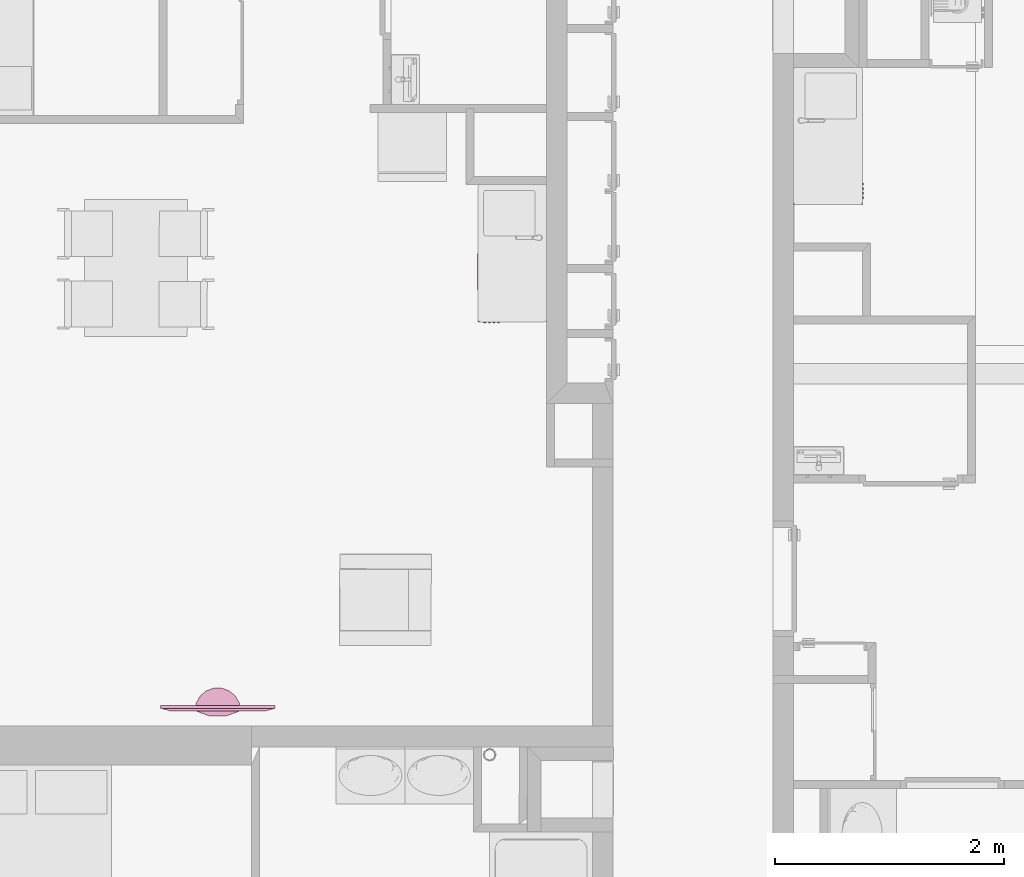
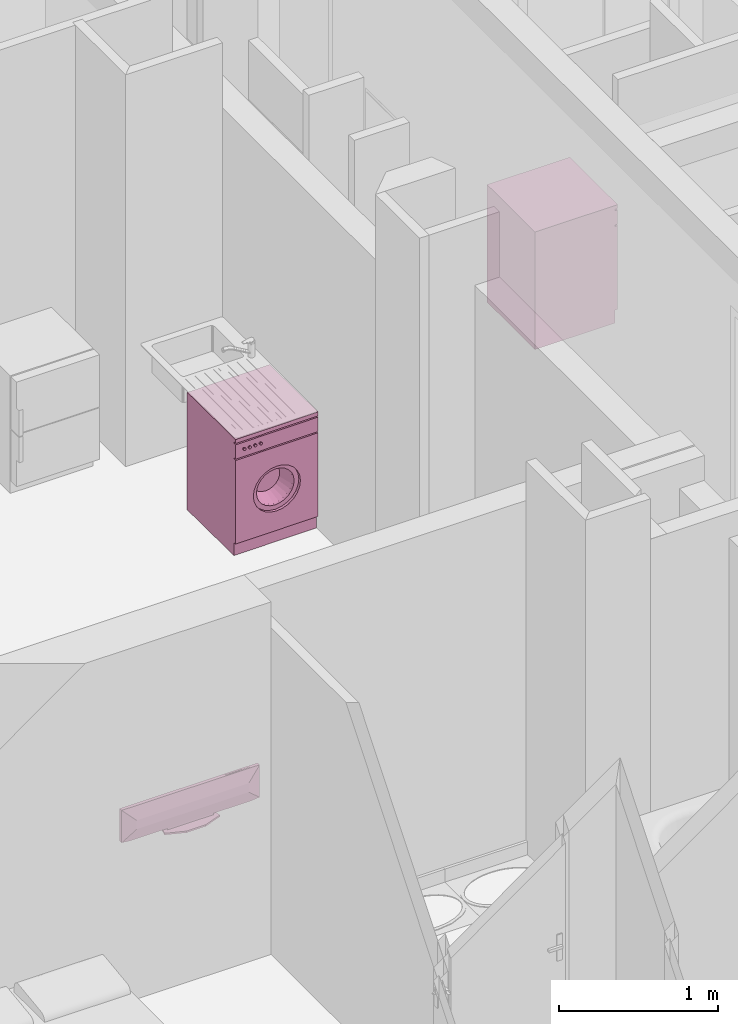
# One storey, part 119 of 164: 3 furnishings.
"""IFC2X3 building model written with IfcOpenShell, lengths in millimetres."""

from ifc_helpers import new_model, entity, si_unit, converted_unit, derived_unit, money_unit, direction, frame, origin_with_axes, place, context, subcontext, project, spatial, open_shell, faceted_brep, surface_model, source, transform, mapped, type_object, element, save


model = new_model("IFC2X3")

# Units and contexts
model_context = context("Model", 3, precision=0.01, world=origin_with_axes(), true_north=direction((0.0, 1.0)))
body_context = subcontext(model_context, "Body", "Model", "MODEL_VIEW")
ifc_project = project(units=[si_unit("LENGTHUNIT", "METRE", prefix="MILLI"), si_unit("AREAUNIT", "SQUARE_METRE"), si_unit("VOLUMEUNIT", "CUBIC_METRE"), converted_unit("PLANEANGLEUNIT", "DEGREE", entity("IfcPlaneAngleMeasure", 0.0174532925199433), si_unit("PLANEANGLEUNIT", "RADIAN"), dimensions=[0, 0, 0, 0, 0, 0, 0]), money_unit("USD"), converted_unit("TIMEUNIT", "Year", entity("IfcTimeMeasure", 31557600.0), si_unit("TIMEUNIT", "SECOND"), dimensions=[0, 0, 1, 0, 0, 0, 0]), si_unit("MASSUNIT", "GRAM", prefix="KILO"), si_unit("THERMODYNAMICTEMPERATUREUNIT", "DEGREE_CELSIUS"), si_unit("LUMINOUSINTENSITYUNIT", "LUMEN"), si_unit("ENERGYUNIT", "JOULE", prefix="MEGA"), derived_unit("THERMALCONDUCTANCEUNIT", [(si_unit("POWERUNIT", "WATT"), 1), (si_unit("LENGTHUNIT", "METRE"), -1), (si_unit("THERMODYNAMICTEMPERATUREUNIT", "KELVIN"), -1)]), derived_unit("SPECIFICHEATCAPACITYUNIT", [(si_unit("ENERGYUNIT", "JOULE"), 1), (si_unit("MASSUNIT", "GRAM", prefix="KILO"), -1), (si_unit("THERMODYNAMICTEMPERATUREUNIT", "KELVIN"), -1)]), derived_unit("MASSDENSITYUNIT", [(si_unit("MASSUNIT", "GRAM", prefix="KILO"), 1), (si_unit("VOLUMEUNIT", "CUBIC_METRE"), -1)])], contexts=[model_context])

# Site, building, storey
site_placement = place(None, origin_with_axes())
site = spatial("IfcSite", under=ifc_project, at=site_placement, Name="Site", CompositionType="ELEMENT")
building_placement = place(site_placement, origin_with_axes())
building = spatial("IfcBuilding", under=site, at=building_placement, Name="Bâtiment", CompositionType="ELEMENT")
storey_placement = place(building_placement, frame((0.0, 0.0, 5750.0), z_axis=(0.0, 0.0, 1.0), x_axis=(1.0, 0.0, 0.0)))
storey = spatial("IfcBuildingStorey", under=building, at=storey_placement, Name="Etage1", CompositionType="ELEMENT", Elevation=5750.0)

# Furnishings
furnishing_element_type_1 = type_object("IfcFurnishingElementType", Name="Ecran TV plasma")
shared_shape_1 = source(origin_with_axes(), body_context, "Body", "Brep", [
    faceted_brep([(-300.0, 45.45454545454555, 0.0), (-300.0, 45.45454545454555, 12.72727272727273), (-311.9952377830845, -22.76722074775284, 12.72727272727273), (-311.9952377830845, -22.76722074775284, 0.0), (-300.362869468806, 45.66379498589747, 0.0), (-300.362869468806, 45.66379498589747, 12.72727272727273), (-430.8157560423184, 93.01588086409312, 12.72727272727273), (-569.5967719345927, 92.94321528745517, 12.72727272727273), (-700.0000000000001, 45.45454545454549, 12.72727272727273), (-699.9923846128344, 43.70923835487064, 12.72727272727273), (-687.402263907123, -24.40525330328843, 12.72727272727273), (-652.3327960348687, -84.13989598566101, 12.72727272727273), (-598.9906470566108, -128.3293772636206, 12.72727272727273), (-533.7743345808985, -151.6730637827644, 12.72727272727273), (-464.5067103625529, -151.3708248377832, 12.72727272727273), (-399.4965906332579, -127.4589147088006, 12.72727272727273), (-346.5420938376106, -82.80562387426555, 12.72727272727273), (-346.5420938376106, -82.80562387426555, 0.0), (-399.4965906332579, -127.4589147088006, 0.0), (-464.5067103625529, -151.3708248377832, 0.0), (-533.7743345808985, -151.6730637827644, 0.0), (-598.9906470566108, -128.3293772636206, 0.0), (-652.3327960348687, -84.13989598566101, 0.0), (-687.402263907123, -24.40525330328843, 0.0), (-699.9923846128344, 43.70923835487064, 0.0), (-700.0000000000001, 45.45454545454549, 0.0), (-569.5967719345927, 92.94321528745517, 0.0), (-430.8157560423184, 93.01588086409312, 0.0)], [[[0, 1, 2, 3]], [[4, 5, 1, 0]], [[1, 5, 6, 7, 8, 9, 10, 11, 12, 13, 14, 15, 16, 2]], [[3, 2, 16, 17]], [[0, 3, 17, 18, 19, 20, 21, 22, 23, 24, 25, 26, 27, 4]], [[27, 6, 5, 4]], [[26, 7, 6, 27]], [[25, 8, 7, 26]], [[24, 9, 8, 25]], [[23, 10, 9, 24]], [[22, 11, 10, 23]], [[21, 12, 11, 22]], [[20, 13, 12, 21]], [[19, 14, 13, 20]], [[18, 15, 14, 19]], [[17, 16, 15, 18]]]),
    faceted_brep([(-666.6666666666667, 2.500000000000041, 12.72727272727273), (-666.6666666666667, 2.500000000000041, 25.45454545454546), (-666.6666666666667, 22.50000000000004, 25.45454545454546), (-666.6666666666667, 22.50000000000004, 12.72727272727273), (-333.3333333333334, 2.500000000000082, 12.72727272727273), (-333.3333333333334, 2.500000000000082, 25.45454545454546), (-333.3333333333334, 22.50000000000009, 25.45454545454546), (-333.3333333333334, 22.50000000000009, 12.72727272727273)], [[[0, 1, 2, 3]], [[4, 5, 1, 0]], [[1, 5, 6, 2]], [[3, 2, 6, 7]], [[0, 3, 7, 4]], [[7, 6, 5, 4]]]),
    faceted_brep([(-62.5, -0.2539999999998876, 65.45454545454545), (-62.5, 0.0, 65.45454545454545), (-62.5, 0.0, 254.5454545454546), (-62.5, -0.2539999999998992, 254.5454545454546), (-937.5, -0.2539999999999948, 65.45454545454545), (-937.5, 0.0, 65.45454545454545), (-937.5, 0.0, 254.5454545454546), (-937.5, -0.2540000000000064, 254.5454545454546)], [[[0, 1, 2, 3]], [[4, 5, 1, 0]], [[1, 5, 6, 2]], [[3, 2, 6, 7]], [[0, 3, 7, 4]], [[7, 6, 5, 4]]]),
    faceted_brep([(-937.5, 0.0, 25.45454545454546), (-62.5, 0.0, 25.45454545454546), (0.0, 0.0, 31.81818181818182), (0.0, 0.0, 280.0), (-1000.0, 0.0, 280.0), (-1000.0, 0.0, 31.81818181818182), (-937.5000003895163, 25.00000000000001, 25.4545450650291), (-62.50000038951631, 25.00000000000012, 25.4545450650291), (-3.895163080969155e-07, 25.00000000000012, 31.81818187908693), (-3.895163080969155e-07, 25.00000000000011, 279.9999999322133), (-1000.000000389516, 24.99999999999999, 279.9999999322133), (-1000.000000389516, 25.0, 31.81818187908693), (-934.156616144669, 42.64268163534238, 91.29792930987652), (-906.6987288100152, 50.00000037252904, 118.7558166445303), (-93.30127196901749, 50.00000037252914, 118.7558166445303), (-65.84338463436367, 42.64268163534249, 91.29792930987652), (-93.30127196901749, 50.00000037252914, 186.6987283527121), (-906.6987288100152, 50.00000037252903, 186.6987283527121)], [[[0, 1, 2, 3, 4, 5]], [[0, 6, 7, 1]], [[1, 7, 8, 2]], [[2, 8, 9, 3]], [[3, 9, 10, 4]], [[4, 10, 11, 5]], [[5, 11, 6, 0]], [[6, 12, 13, 14, 15, 7]], [[7, 15, 8]], [[8, 15, 14, 16, 9]], [[9, 16, 17, 10]], [[10, 17, 13, 12, 11]], [[11, 12, 6]], [[17, 16, 14, 13]]]),
    faceted_brep([(-500.0, -0.7937499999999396, 39.45454545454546), (-500.0, 0.0, 39.45454545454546), (-490.0, 0.0, 46.45454545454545), (-490.0, -0.7937499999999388, 46.45454545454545), (-510.0, -0.7937499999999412, 46.45454545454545), (-510.0, 0.0, 46.45454545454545), (-600.0, 0.0, 52.18181818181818), (-400.0, 0.0, 52.18181818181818), (-400.0, -0.7937499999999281, 52.18181818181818), (-600.0, -0.7937499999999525, 52.18181818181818)], [[[0, 1, 2, 3]], [[4, 5, 1, 0]], [[1, 5, 6, 7, 2]], [[3, 2, 7, 8]], [[0, 3, 8, 9, 4]], [[9, 6, 5, 4]], [[8, 7, 6, 9]]]),
    faceted_brep([(-866.6666666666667, 10.0, 280.0), (-866.6666666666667, 10.0, 281.5875), (-933.3333333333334, 9.999999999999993, 281.5875), (-933.3333333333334, 9.999999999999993, 280.0), (-866.6666666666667, 16.25, 280.0), (-866.6666666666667, 16.25, 281.5875), (-933.3333333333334, 16.24999999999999, 281.5875), (-933.3333333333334, 16.24999999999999, 280.0)], [[[0, 1, 2, 3]], [[0, 4, 5, 1]], [[1, 5, 6, 2]], [[2, 6, 7, 3]], [[3, 7, 4, 0]], [[7, 6, 5, 4]]]),
    faceted_brep([(-795.2380952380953, 10.00000000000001, 280.0), (-795.2380952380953, 10.00000000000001, 281.5875), (-861.9047619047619, 10.0, 281.5875), (-861.9047619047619, 10.0, 280.0), (-795.2380952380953, 16.25000000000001, 280.0), (-795.2380952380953, 16.25000000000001, 281.5875), (-861.9047619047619, 16.25, 281.5875), (-861.9047619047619, 16.25, 280.0)], [[[0, 1, 2, 3]], [[0, 4, 5, 1]], [[1, 5, 6, 2]], [[2, 6, 7, 3]], [[3, 7, 4, 0]], [[7, 6, 5, 4]]]),
    faceted_brep([(-757.1428571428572, 10.00000000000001, 280.0), (-757.1428571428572, 10.00000000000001, 281.5875), (-790.4761904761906, 10.00000000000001, 281.5875), (-790.4761904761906, 10.00000000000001, 280.0), (-757.1428571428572, 16.25000000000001, 280.0), (-757.1428571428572, 16.25000000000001, 281.5875), (-790.4761904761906, 16.25000000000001, 281.5875), (-790.4761904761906, 16.25000000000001, 280.0)], [[[0, 1, 2, 3]], [[0, 4, 5, 1]], [[1, 5, 6, 2]], [[2, 6, 7, 3]], [[3, 7, 4, 0]], [[7, 6, 5, 4]]]),
])
furnishing_placement = place(storey_placement, frame((2220356.736010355, -643834.6130542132, 800.0000000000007), z_axis=(0.0, 0.0, 1.0), x_axis=(-0.999999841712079, 0.0005626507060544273, 0.0)))
element("IfcFurnishingElement", 1, at=furnishing_placement, inside=storey, type_object=furnishing_element_type_1, Name="Obj.-034", context=body_context, shape_type="MappedRepresentation", body=[
    mapped(shared_shape_1, transform((0.0, 0.0, 0.0))),
])
furnishing_element_type_2 = type_object("IfcFurnishingElementType", Name="Machine à laver")
shared_shape_2 = source(origin_with_axes(), body_context, "Body", "SurfaceModel", [
    faceted_brep([(0.0, 20.0, 100.0), (600.0, 20.0, 100.0), (600.0, 0.0, 100.0), (0.0, 0.0, 100.0), (0.0, 20.00000000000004, 740.0), (600.0, 20.00000000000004, 740.0), (471.4285714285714, 20.00000000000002, 420.0000000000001), (465.5872845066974, 20.00000000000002, 464.3689791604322), (448.4614977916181, 20.00000000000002, 505.7142857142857), (421.2183053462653, 20.00000000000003, 541.2183053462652), (385.7142857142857, 20.00000000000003, 568.4614977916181), (344.3689791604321, 20.00000000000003, 585.5872845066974), (300.0000000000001, 20.00000000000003, 591.4285714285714), (255.6310208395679, 20.00000000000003, 585.5872845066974), (214.2857142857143, 20.00000000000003, 568.4614977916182), (178.7816946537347, 20.00000000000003, 541.2183053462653), (151.5385022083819, 20.00000000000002, 505.7142857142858), (134.4127154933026, 20.00000000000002, 464.3689791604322), (128.5714285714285, 20.00000000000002, 420.0000000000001), (134.4127154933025, 20.00000000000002, 375.6310208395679), (151.5385022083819, 20.00000000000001, 334.2857142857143), (178.7816946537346, 20.00000000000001, 298.7816946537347), (214.2857142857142, 20.00000000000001, 271.5385022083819), (255.6310208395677, 20.00000000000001, 254.4127154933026), (299.9999999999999, 20.00000000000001, 248.5714285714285), (344.368979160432, 20.00000000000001, 254.4127154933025), (385.7142857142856, 20.00000000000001, 271.5385022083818), (421.2183053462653, 20.00000000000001, 298.7816946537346), (448.4614977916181, 20.00000000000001, 334.2857142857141), (465.5872845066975, 20.00000000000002, 375.6310208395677), (600.0, 0.0, 740.0), (0.0, 0.0, 740.0), (471.4285714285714, 0.0, 420.0000000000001), (465.5872845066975, 0.0, 375.6310208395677), (448.4614977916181, 0.0, 334.2857142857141), (421.2183053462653, 0.0, 298.7816946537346), (385.7142857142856, 0.0, 271.5385022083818), (344.368979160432, 0.0, 254.4127154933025), (299.9999999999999, 0.0, 248.5714285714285), (255.6310208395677, 0.0, 254.4127154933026), (214.2857142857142, 0.0, 271.5385022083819), (178.7816946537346, 0.0, 298.7816946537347), (151.5385022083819, 0.0, 334.2857142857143), (134.4127154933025, 0.0, 375.6310208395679), (128.5714285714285, 0.0, 420.0000000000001), (134.4127154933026, 0.0, 464.3689791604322), (151.5385022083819, 0.0, 505.7142857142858), (178.7816946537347, 0.0, 541.2183053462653), (214.2857142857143, 0.0, 568.4614977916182), (255.6310208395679, 0.0, 585.5872845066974), (300.0000000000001, 0.0, 591.4285714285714), (344.3689791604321, 0.0, 585.5872845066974), (385.7142857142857, 0.0, 568.4614977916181), (421.2183053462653, 0.0, 541.2183053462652), (448.4614977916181, 0.0, 505.7142857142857), (465.5872845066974, 0.0, 464.3689791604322)], [[[0, 1, 2, 3]], [[0, 4, 5, 1], [6, 7, 8, 9, 10, 11, 12, 13, 14, 15, 16, 17, 18, 19, 20, 21, 22, 23, 24, 25, 26, 27, 28, 29]], [[1, 5, 30, 2]], [[3, 2, 30, 31], [32, 33, 34, 35, 36, 37, 38, 39, 40, 41, 42, 43, 44, 45, 46, 47, 48, 49, 50, 51, 52, 53, 54, 55]], [[4, 0, 3, 31]], [[5, 4, 31, 30]], [[7, 6, 32, 55]], [[8, 7, 55, 54]], [[9, 8, 54, 53]], [[10, 9, 53, 52]], [[11, 10, 52, 51]], [[12, 11, 51, 50]], [[13, 12, 50, 49]], [[14, 13, 49, 48]], [[15, 14, 48, 47]], [[16, 15, 47, 46]], [[17, 16, 46, 45]], [[18, 17, 45, 44]], [[19, 18, 44, 43]], [[20, 19, 43, 42]], [[21, 20, 42, 41]], [[22, 21, 41, 40]], [[23, 22, 40, 39]], [[24, 23, 39, 38]], [[25, 24, 38, 37]], [[26, 25, 37, 36]], [[27, 26, 36, 35]], [[28, 27, 35, 34]], [[29, 28, 34, 33]], [[6, 29, 33, 32]]]),
    faceted_brep([(471.4285714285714, 40.00000000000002, 420.0000000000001), (465.5872845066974, 40.00000000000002, 464.3689791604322), (465.5872845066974, 20.00000000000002, 464.3689791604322), (471.4285714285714, 20.00000000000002, 420.0000000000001), (465.5872845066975, 40.00000000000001, 375.6310208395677), (448.4614977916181, 40.00000000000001, 334.2857142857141), (421.2183053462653, 40.00000000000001, 298.7816946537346), (385.7142857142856, 40.00000000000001, 271.5385022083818), (344.368979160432, 40.00000000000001, 254.4127154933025), (299.9999999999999, 40.00000000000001, 248.5714285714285), (255.6310208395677, 40.00000000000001, 254.4127154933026), (214.2857142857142, 40.00000000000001, 271.5385022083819), (178.7816946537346, 40.00000000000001, 298.7816946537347), (151.5385022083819, 40.00000000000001, 334.2857142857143), (134.4127154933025, 40.00000000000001, 375.6310208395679), (128.5714285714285, 40.00000000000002, 420.0000000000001), (134.4127154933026, 40.00000000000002, 464.3689791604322), (151.5385022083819, 40.00000000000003, 505.7142857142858), (178.7816946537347, 40.00000000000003, 541.2183053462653), (214.2857142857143, 40.00000000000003, 568.4614977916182), (255.6310208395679, 40.00000000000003, 585.5872845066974), (300.0000000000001, 40.00000000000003, 591.4285714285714), (344.3689791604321, 40.00000000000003, 585.5872845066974), (385.7142857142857, 40.00000000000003, 568.4614977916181), (421.2183053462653, 40.00000000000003, 541.2183053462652), (448.4614977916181, 40.00000000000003, 505.7142857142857), (437.1428571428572, 40.00000000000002, 420.0000000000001), (432.469827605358, 40.00000000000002, 455.4951833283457), (418.7691982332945, 40.00000000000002, 488.5714285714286), (396.9746442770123, 40.00000000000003, 516.9746442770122), (368.5714285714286, 40.00000000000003, 538.7691982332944), (335.4951833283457, 40.00000000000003, 552.469827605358), (300.0000000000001, 40.00000000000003, 557.1428571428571), (264.5048166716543, 40.00000000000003, 552.469827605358), (231.4285714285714, 40.00000000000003, 538.7691982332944), (203.0253557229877, 40.00000000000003, 516.9746442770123), (181.2308017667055, 40.00000000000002, 488.5714285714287), (167.530172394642, 40.00000000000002, 455.4951833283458), (162.8571428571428, 40.00000000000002, 420.0000000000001), (167.530172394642, 40.00000000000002, 384.5048166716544), (181.2308017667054, 40.00000000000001, 351.4285714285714), (203.0253557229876, 40.00000000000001, 323.0253557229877), (231.4285714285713, 40.00000000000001, 301.2308017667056), (264.5048166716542, 40.00000000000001, 287.530172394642), (299.9999999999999, 40.00000000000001, 282.8571428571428), (335.4951833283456, 40.00000000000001, 287.530172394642), (368.5714285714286, 40.00000000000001, 301.2308017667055), (396.9746442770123, 40.00000000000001, 323.0253557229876), (418.7691982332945, 40.00000000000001, 351.4285714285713), (432.469827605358, 40.00000000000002, 384.5048166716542), (448.4614977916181, 20.00000000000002, 505.7142857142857), (421.2183053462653, 20.00000000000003, 541.2183053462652), (385.7142857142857, 20.00000000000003, 568.4614977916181), (344.3689791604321, 20.00000000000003, 585.5872845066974), (300.0000000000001, 20.00000000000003, 591.4285714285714), (255.6310208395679, 20.00000000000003, 585.5872845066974), (214.2857142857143, 20.00000000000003, 568.4614977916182), (178.7816946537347, 20.00000000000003, 541.2183053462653), (151.5385022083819, 20.00000000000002, 505.7142857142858), (134.4127154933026, 20.00000000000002, 464.3689791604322), (128.5714285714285, 20.00000000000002, 420.0000000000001), (134.4127154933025, 20.00000000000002, 375.6310208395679), (151.5385022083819, 20.00000000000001, 334.2857142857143), (178.7816946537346, 20.00000000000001, 298.7816946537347), (214.2857142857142, 20.00000000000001, 271.5385022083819), (255.6310208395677, 20.00000000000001, 254.4127154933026), (299.9999999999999, 20.00000000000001, 248.5714285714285), (344.368979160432, 20.00000000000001, 254.4127154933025), (385.7142857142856, 20.00000000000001, 271.5385022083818), (421.2183053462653, 20.00000000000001, 298.7816946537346), (448.4614977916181, 20.00000000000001, 334.2857142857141), (465.5872845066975, 20.00000000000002, 375.6310208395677), (437.1428571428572, 20.00000000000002, 420.0000000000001), (432.469827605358, 20.00000000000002, 384.5048166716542), (418.7691982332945, 20.00000000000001, 351.4285714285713), (396.9746442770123, 20.00000000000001, 323.0253557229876), (368.5714285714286, 20.00000000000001, 301.2308017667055), (335.4951833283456, 20.00000000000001, 287.530172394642), (299.9999999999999, 20.00000000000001, 282.8571428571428), (264.5048166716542, 20.00000000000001, 287.530172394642), (231.4285714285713, 20.00000000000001, 301.2308017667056), (203.0253557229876, 20.00000000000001, 323.0253557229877), (181.2308017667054, 20.00000000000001, 351.4285714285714), (167.530172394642, 20.00000000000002, 384.5048166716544), (162.8571428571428, 20.00000000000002, 420.0000000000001), (167.530172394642, 20.00000000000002, 455.4951833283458), (181.2308017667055, 20.00000000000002, 488.5714285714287), (203.0253557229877, 20.00000000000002, 516.9746442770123), (231.4285714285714, 20.00000000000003, 538.7691982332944), (264.5048166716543, 20.00000000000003, 552.469827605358), (300.0000000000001, 20.00000000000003, 557.1428571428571), (335.4951833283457, 20.00000000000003, 552.469827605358), (368.5714285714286, 20.00000000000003, 538.7691982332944), (396.9746442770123, 20.00000000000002, 516.9746442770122), (418.7691982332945, 20.00000000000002, 488.5714285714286), (432.469827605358, 20.00000000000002, 455.4951833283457)], [[[0, 1, 2, 3]], [[0, 4, 5, 6, 7, 8, 9, 10, 11, 12, 13, 14, 15, 16, 17, 18, 19, 20, 21, 22, 23, 24, 25, 1], [26, 27, 28, 29, 30, 31, 32, 33, 34, 35, 36, 37, 38, 39, 40, 41, 42, 43, 44, 45, 46, 47, 48, 49]], [[1, 25, 50, 2]], [[3, 2, 50, 51, 52, 53, 54, 55, 56, 57, 58, 59, 60, 61, 62, 63, 64, 65, 66, 67, 68, 69, 70, 71], [72, 73, 74, 75, 76, 77, 78, 79, 80, 81, 82, 83, 84, 85, 86, 87, 88, 89, 90, 91, 92, 93, 94, 95]], [[4, 0, 3, 71]], [[5, 4, 71, 70]], [[6, 5, 70, 69]], [[7, 6, 69, 68]], [[8, 7, 68, 67]], [[9, 8, 67, 66]], [[10, 9, 66, 65]], [[11, 10, 65, 64]], [[12, 11, 64, 63]], [[13, 12, 63, 62]], [[14, 13, 62, 61]], [[15, 14, 61, 60]], [[16, 15, 60, 59]], [[17, 16, 59, 58]], [[18, 17, 58, 57]], [[19, 18, 57, 56]], [[20, 19, 56, 55]], [[21, 20, 55, 54]], [[22, 21, 54, 53]], [[23, 22, 53, 52]], [[24, 23, 52, 51]], [[25, 24, 51, 50]], [[27, 26, 72, 95]], [[28, 27, 95, 94]], [[29, 28, 94, 93]], [[30, 29, 93, 92]], [[31, 30, 92, 91]], [[32, 31, 91, 90]], [[33, 32, 90, 89]], [[34, 33, 89, 88]], [[35, 34, 88, 87]], [[36, 35, 87, 86]], [[37, 36, 86, 85]], [[38, 37, 85, 84]], [[39, 38, 84, 83]], [[40, 39, 83, 82]], [[41, 40, 82, 81]], [[42, 41, 81, 80]], [[43, 42, 80, 79]], [[44, 43, 79, 78]], [[45, 44, 78, 77]], [[46, 45, 77, 76]], [[47, 46, 76, 75]], [[48, 47, 75, 74]], [[49, 48, 74, 73]], [[26, 49, 73, 72]]]),
    surface_model("IfcShellBasedSurfaceModel", [(264.5048166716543, 39.99999999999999, 552.469827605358), (300.0, 39.99999999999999, 557.1428571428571), (300.0, 140.0, 522.8571428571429), (273.3786125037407, 140.0, 519.3523707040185), (335.4951833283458, 39.99999999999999, 552.469827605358), (326.6213874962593, 140.0, 519.3523707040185), (351.4285714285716, 140.0, 509.0768986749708), (372.7309832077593, 140.0, 492.7309832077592), (389.0768986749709, 140.0, 471.4285714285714), (399.3523707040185, 140.0, 446.6213874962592), (402.8571428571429, 140.0, 420.0), (399.3523707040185, 140.0, 393.3786125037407), (389.0768986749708, 140.0, 368.5714285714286), (372.7309832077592, 140.0, 347.2690167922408), (351.4285714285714, 140.0, 330.9231013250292), (326.6213874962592, 140.0, 320.6476292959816), (299.9999999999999, 140.0, 317.1428571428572), (273.3786125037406, 140.0, 320.6476292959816), (248.5714285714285, 140.0, 330.9231013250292), (227.2690167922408, 140.0, 347.2690167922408), (210.9231013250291, 140.0, 368.5714285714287), (200.6476292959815, 140.0, 393.3786125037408), (197.1428571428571, 140.0, 420.0000000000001), (200.6476292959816, 140.0, 446.6213874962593), (210.9231013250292, 140.0, 471.4285714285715), (227.2690167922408, 140.0, 492.7309832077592), (248.5714285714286, 140.0, 509.0768986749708), (231.4285714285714, 39.99999999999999, 538.7691982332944), (368.5714285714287, 39.99999999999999, 538.7691982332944), (396.9746442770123, 39.99999999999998, 516.9746442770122), (418.7691982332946, 39.99999999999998, 488.5714285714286), (432.469827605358, 39.99999999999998, 455.4951833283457), (437.1428571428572, 39.99999999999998, 419.9999999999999), (432.469827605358, 39.99999999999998, 384.5048166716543), (418.7691982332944, 39.99999999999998, 351.4285714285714), (396.9746442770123, 39.99999999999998, 323.0253557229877), (368.5714285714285, 39.99999999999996, 301.2308017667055), (335.4951833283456, 39.99999999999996, 287.5301723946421), (299.9999999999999, 39.99999999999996, 282.8571428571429), (264.5048166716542, 39.99999999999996, 287.5301723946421), (231.4285714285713, 39.99999999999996, 301.2308017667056), (203.0253557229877, 39.99999999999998, 323.0253557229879), (181.2308017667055, 39.99999999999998, 351.4285714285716), (167.530172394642, 39.99999999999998, 384.5048166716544), (162.8571428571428, 39.99999999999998, 420.0000000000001), (167.5301723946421, 39.99999999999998, 455.4951833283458), (181.2308017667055, 39.99999999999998, 488.5714285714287), (203.0253557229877, 39.99999999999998, 516.9746442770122)], [open_shell([[[0, 1, 2, 3]], [[1, 4, 5, 2]], [[2, 5, 6, 7, 8, 9, 10, 11, 12, 13, 14, 15, 16, 17, 18, 19, 20, 21, 22, 23, 24, 25, 26, 3]], [[27, 0, 3, 26]], [[4, 28, 6, 5]], [[28, 29, 7, 6]], [[29, 30, 8, 7]], [[30, 31, 9, 8]], [[31, 32, 10, 9]], [[32, 33, 11, 10]], [[33, 34, 12, 11]], [[34, 35, 13, 12]], [[35, 36, 14, 13]], [[36, 37, 15, 14]], [[37, 38, 16, 15]], [[38, 39, 17, 16]], [[39, 40, 18, 17]], [[40, 41, 19, 18]], [[41, 42, 20, 19]], [[42, 43, 21, 20]], [[43, 44, 22, 21]], [[44, 45, 23, 22]], [[45, 46, 24, 23]], [[46, 47, 25, 24]], [[47, 27, 26, 25]]])]),
    surface_model("IfcShellBasedSurfaceModel", [(0.0, 20.0, 100.0), (0.0, 20.00000000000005, 870.0), (0.0, 600.0, 870.0), (0.0, 600.0, 99.99999999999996)], [open_shell([[[0, 1, 2, 3]]])]),
    surface_model("IfcShellBasedSurfaceModel", [(600.0, 19.99999999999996, 100.0), (600.0, 20.00000000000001, 870.0), (600.0, 599.9999999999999, 870.0), (600.0, 599.9999999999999, 99.99999999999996)], [open_shell([[[0, 1, 2, 3]]])]),
    surface_model("IfcShellBasedSurfaceModel", [(0.0, 600.0, 100.0), (0.0, 600.0, 870.0), (600.0, 600.0, 870.0), (600.0, 600.0, 100.0)], [open_shell([[[0, 1, 2, 3]]])]),
    faceted_brep([(0.0, 20.0, 0.0), (600.0, 20.0, 0.0), (600.0, 20.0, 100.0), (0.0, 20.0, 100.0), (0.0, 600.0, 0.0), (600.0, 600.0, 0.0), (600.0, 600.0, 100.0), (0.0, 600.0, 100.0)], [[[0, 1, 2, 3]], [[0, 4, 5, 1]], [[1, 5, 6, 2]], [[3, 2, 6, 7]], [[4, 0, 3, 7]], [[5, 4, 7, 6]]]),
    faceted_brep([(0.0, 20.0, 750.0), (600.0, 20.0, 750.0), (600.0, 0.0, 750.0), (0.0, 0.0, 750.0), (0.0, 20.00000000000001, 860.0), (600.0, 20.00000000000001, 860.0), (600.0, 0.0, 860.0), (0.0, 0.0, 860.0)], [[[0, 1, 2, 3]], [[0, 4, 5, 1]], [[1, 5, 6, 2]], [[3, 2, 6, 7]], [[4, 0, 3, 7]], [[5, 4, 7, 6]]]),
    surface_model("IfcShellBasedSurfaceModel", [(0.0, 20.0, 740.0), (0.0, 20.00000000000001, 870.0), (600.0, 20.00000000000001, 870.0), (600.0, 20.0, 740.0)], [open_shell([[[0, 1, 2, 3]]])]),
    faceted_brep([(0.0, 0.0, 870.0), (600.0, 0.0, 870.0), (600.0, 0.0, 900.0), (0.0, 0.0, 900.0), (0.0, 600.0, 870.0), (600.0, 600.0, 870.0), (600.0, 600.0, 900.0), (0.0, 600.0, 900.0)], [[[0, 1, 2, 3]], [[0, 4, 5, 1]], [[1, 5, 6, 2]], [[3, 2, 6, 7]], [[4, 0, 3, 7]], [[5, 4, 7, 6]]]),
    faceted_brep([(68.66025403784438, 0.0, 804.9999999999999), (64.99999999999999, 0.0, 801.3397459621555), (59.99999999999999, 0.0, 799.9999999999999), (54.99999999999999, 0.0, 801.3397459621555), (51.33974596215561, 0.0, 804.9999999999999), (49.99999999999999, 0.0, 809.9999999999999), (51.33974596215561, 0.0, 815.0), (55.0, 0.0, 818.6602540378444), (60.0, 0.0, 820.0), (65.0, 0.0, 818.6602540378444), (68.66025403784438, 0.0, 815.0), (69.99999999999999, 0.0, 809.9999999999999), (68.66025403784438, -10.0, 804.9999999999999), (64.99999999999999, -10.0, 801.3397459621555), (59.99999999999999, -10.0, 799.9999999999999), (54.99999999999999, -10.0, 801.3397459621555), (51.33974596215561, -10.0, 804.9999999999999), (49.99999999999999, -10.0, 809.9999999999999), (51.33974596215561, -10.0, 815.0), (55.0, -10.0, 818.6602540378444), (60.0, -10.0, 820.0), (65.0, -10.0, 818.6602540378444), (68.66025403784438, -10.0, 815.0), (69.99999999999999, -10.0, 809.9999999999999)], [[[0, 1, 2, 3, 4, 5, 6, 7, 8, 9, 10, 11]], [[1, 0, 12, 13]], [[2, 1, 13, 14]], [[3, 2, 14, 15]], [[4, 3, 15, 16]], [[5, 4, 16, 17]], [[6, 5, 17, 18]], [[7, 6, 18, 19]], [[8, 7, 19, 20]], [[9, 8, 20, 21]], [[10, 9, 21, 22]], [[11, 10, 22, 23]], [[0, 11, 23, 12]], [[12, 23, 22, 21, 20, 19, 18, 17, 16, 15, 14, 13]]]),
    faceted_brep([(108.6602540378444, 0.0, 804.9999999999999), (105.0, 0.0, 801.3397459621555), (99.99999999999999, 0.0, 799.9999999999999), (95.0, 0.0, 801.3397459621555), (91.33974596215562, 0.0, 804.9999999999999), (90.00000000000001, 0.0, 809.9999999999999), (91.33974596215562, 0.0, 815.0), (95.0, 0.0, 818.6602540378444), (100.0, 0.0, 820.0), (105.0, 0.0, 818.6602540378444), (108.6602540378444, 0.0, 815.0), (110.0, 0.0, 809.9999999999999), (108.6602540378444, -10.0, 804.9999999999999), (105.0, -10.0, 801.3397459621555), (99.99999999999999, -10.0, 799.9999999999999), (95.0, -10.0, 801.3397459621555), (91.33974596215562, -10.0, 804.9999999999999), (90.00000000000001, -10.0, 809.9999999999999), (91.33974596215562, -10.0, 815.0), (95.0, -10.0, 818.6602540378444), (100.0, -10.0, 820.0), (105.0, -10.0, 818.6602540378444), (108.6602540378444, -10.0, 815.0), (110.0, -10.0, 809.9999999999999)], [[[0, 1, 2, 3, 4, 5, 6, 7, 8, 9, 10, 11]], [[1, 0, 12, 13]], [[2, 1, 13, 14]], [[3, 2, 14, 15]], [[4, 3, 15, 16]], [[5, 4, 16, 17]], [[6, 5, 17, 18]], [[7, 6, 18, 19]], [[8, 7, 19, 20]], [[9, 8, 20, 21]], [[10, 9, 21, 22]], [[11, 10, 22, 23]], [[0, 11, 23, 12]], [[12, 23, 22, 21, 20, 19, 18, 17, 16, 15, 14, 13]]]),
    faceted_brep([(148.6602540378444, 0.0, 804.9999999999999), (145.0, 0.0, 801.3397459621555), (140.0, 0.0, 799.9999999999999), (135.0, 0.0, 801.3397459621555), (131.3397459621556, 0.0, 804.9999999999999), (130.0, 0.0, 809.9999999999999), (131.3397459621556, 0.0, 815.0), (135.0, 0.0, 818.6602540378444), (140.0, 0.0, 820.0), (145.0, 0.0, 818.6602540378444), (148.6602540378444, 0.0, 815.0), (150.0, 0.0, 809.9999999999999), (148.6602540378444, -10.0, 804.9999999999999), (145.0, -10.0, 801.3397459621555), (140.0, -10.0, 799.9999999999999), (135.0, -10.0, 801.3397459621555), (131.3397459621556, -10.0, 804.9999999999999), (130.0, -10.0, 809.9999999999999), (131.3397459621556, -10.0, 815.0), (135.0, -10.0, 818.6602540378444), (140.0, -10.0, 820.0), (145.0, -10.0, 818.6602540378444), (148.6602540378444, -10.0, 815.0), (150.0, -10.0, 809.9999999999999)], [[[0, 1, 2, 3, 4, 5, 6, 7, 8, 9, 10, 11]], [[1, 0, 12, 13]], [[2, 1, 13, 14]], [[3, 2, 14, 15]], [[4, 3, 15, 16]], [[5, 4, 16, 17]], [[6, 5, 17, 18]], [[7, 6, 18, 19]], [[8, 7, 19, 20]], [[9, 8, 20, 21]], [[10, 9, 21, 22]], [[11, 10, 22, 23]], [[0, 11, 23, 12]], [[12, 23, 22, 21, 20, 19, 18, 17, 16, 15, 14, 13]]]),
    faceted_brep([(188.6602540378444, 0.0, 804.9999999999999), (185.0, 0.0, 801.3397459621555), (180.0, 0.0, 799.9999999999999), (175.0, 0.0, 801.3397459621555), (171.3397459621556, 0.0, 804.9999999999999), (170.0, 0.0, 809.9999999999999), (171.3397459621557, 0.0, 815.0), (175.0, 0.0, 818.6602540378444), (180.0, 0.0, 820.0), (185.0, 0.0, 818.6602540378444), (188.6602540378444, 0.0, 815.0), (190.0, 0.0, 809.9999999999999), (188.6602540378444, -10.0, 804.9999999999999), (185.0, -10.0, 801.3397459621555), (180.0, -10.0, 799.9999999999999), (175.0, -10.0, 801.3397459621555), (171.3397459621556, -10.0, 804.9999999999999), (170.0, -10.0, 809.9999999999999), (171.3397459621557, -10.0, 815.0), (175.0, -10.0, 818.6602540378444), (180.0, -10.0, 820.0), (185.0, -10.0, 818.6602540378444), (188.6602540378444, -10.0, 815.0), (190.0, -10.0, 809.9999999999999)], [[[0, 1, 2, 3, 4, 5, 6, 7, 8, 9, 10, 11]], [[1, 0, 12, 13]], [[2, 1, 13, 14]], [[3, 2, 14, 15]], [[4, 3, 15, 16]], [[5, 4, 16, 17]], [[6, 5, 17, 18]], [[7, 6, 18, 19]], [[8, 7, 19, 20]], [[9, 8, 20, 21]], [[10, 9, 21, 22]], [[11, 10, 22, 23]], [[0, 11, 23, 12]], [[12, 23, 22, 21, 20, 19, 18, 17, 16, 15, 14, 13]]]),
])
for number, where, z_axis, x_axis, name in (
    (2, (2226492.318353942, -639455.8793166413, 0.0), (0.0, 0.0, 1.0), (9.604381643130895e-05, 0.9999999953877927, 0.0), "Obj.-019"),
    (3, (2223132.000865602, -640482.8179966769, 0.0), (0.0, 0.0, 1.0), (0.9999762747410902, 0.00688839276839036, 0.0), "Obj.-019"),
):
    element("IfcFurnishingElement", number, at=place(storey_placement, frame(where, z_axis=z_axis, x_axis=x_axis)), inside=storey, type_object=furnishing_element_type_2, Name=name, context=body_context, shape_type="MappedRepresentation", body=[
        mapped(shared_shape_2, transform((0.0, 0.0, 0.0))),
    ])

save(model, "model.ifc")
